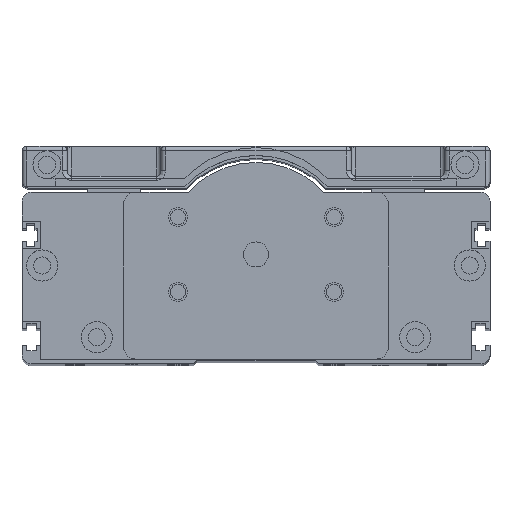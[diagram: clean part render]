
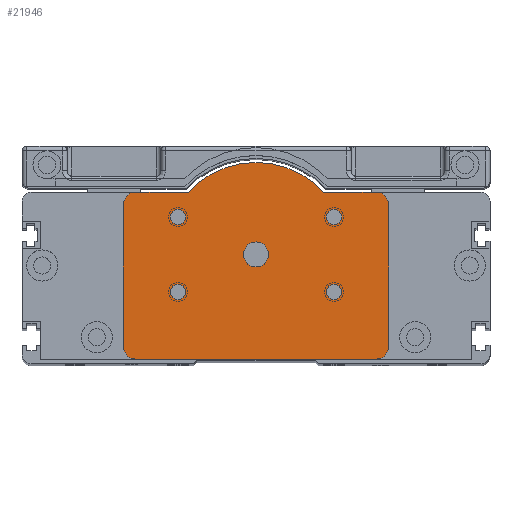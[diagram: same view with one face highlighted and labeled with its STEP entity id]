
A CAD part, top view. The second image highlights one B-rep face of the part: STEP entity #21946.
In plain terms, the highlighted planar face has unit normal (0, 0, 1).
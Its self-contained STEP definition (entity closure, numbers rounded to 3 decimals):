
#20588=CARTESIAN_POINT('',(38.5,49.5,29.));
#20589=DIRECTION('',(0.,0.,1.));
#20590=DIRECTION('',(1.,0.,0.));
#20591=AXIS2_PLACEMENT_3D('',#20588,#20589,#20590);
#20597=CARTESIAN_POINT('',(38.5,4.,29.));
#20598=DIRECTION('',(0.,0.,1.));
#20599=DIRECTION('',(0.,-1.,0.));
#20600=AXIS2_PLACEMENT_3D('',#20597,#20598,#20599);
#20749=CARTESIAN_POINT('',(-38.5,49.5,29.));
#20750=DIRECTION('',(0.,0.,1.));
#20751=DIRECTION('',(0.,1.,0.));
#20752=AXIS2_PLACEMENT_3D('',#20749,#20750,#20751);
#20763=DIRECTION('',(0.,1.,0.));
#20764=VECTOR('',#20763,45.5);
#20765=CARTESIAN_POINT('',(42.5,4.,29.));
#20766=LINE('',#20765,#20764);
#20767=DIRECTION('',(1.,0.,0.));
#20768=VECTOR('',#20767,77.);
#20769=CARTESIAN_POINT('',(-38.5,0.,29.));
#20770=LINE('',#20769,#20768);
#20771=DIRECTION('',(0.,1.,0.));
#20772=VECTOR('',#20771,45.5);
#20773=CARTESIAN_POINT('',(-42.5,4.,29.));
#20774=LINE('',#20773,#20772);
#20775=DIRECTION('',(-1.,0.,0.));
#20776=VECTOR('',#20775,16.815);
#20777=CARTESIAN_POINT('',(-21.685,53.5,29.));
#20778=LINE('',#20777,#20776);
#20779=CARTESIAN_POINT('',(0.,33.5,29.));
#20780=DIRECTION('',(0.,0.,1.));
#20781=DIRECTION('',(0.735,0.678,0.));
#20782=AXIS2_PLACEMENT_3D('',#20779,#20780,#20781);
#20784=DIRECTION('',(-1.,0.,0.));
#20785=VECTOR('',#20784,16.815);
#20786=CARTESIAN_POINT('',(38.5,53.5,29.));
#20787=LINE('',#20786,#20785);
#20788=CARTESIAN_POINT('',(0.,33.5,29.));
#20789=DIRECTION('',(0.,0.,1.));
#20790=DIRECTION('',(1.,0.,0.));
#20791=AXIS2_PLACEMENT_3D('',#20788,#20789,#20790);
#20793=CARTESIAN_POINT('',(0.,33.5,29.));
#20794=DIRECTION('',(0.,0.,1.));
#20795=DIRECTION('',(-1.,0.,0.));
#20796=AXIS2_PLACEMENT_3D('',#20793,#20794,#20795);
#20798=CARTESIAN_POINT('',(25.,45.5,29.));
#20799=DIRECTION('',(0.,0.,-1.));
#20800=DIRECTION('',(-1.,0.,0.));
#20801=AXIS2_PLACEMENT_3D('',#20798,#20799,#20800);
#20803=CARTESIAN_POINT('',(25.,45.5,29.));
#20804=DIRECTION('',(0.,0.,-1.));
#20805=DIRECTION('',(1.,0.,0.));
#20806=AXIS2_PLACEMENT_3D('',#20803,#20804,#20805);
#20808=CARTESIAN_POINT('',(25.,21.5,29.));
#20809=DIRECTION('',(0.,0.,1.));
#20810=DIRECTION('',(-1.,0.,0.));
#20811=AXIS2_PLACEMENT_3D('',#20808,#20809,#20810);
#20813=CARTESIAN_POINT('',(25.,21.5,29.));
#20814=DIRECTION('',(0.,0.,1.));
#20815=DIRECTION('',(1.,0.,0.));
#20816=AXIS2_PLACEMENT_3D('',#20813,#20814,#20815);
#20818=CARTESIAN_POINT('',(-25.,45.5,29.));
#20819=DIRECTION('',(0.,0.,1.));
#20820=DIRECTION('',(1.,0.,0.));
#20821=AXIS2_PLACEMENT_3D('',#20818,#20819,#20820);
#20823=CARTESIAN_POINT('',(-25.,45.5,29.));
#20824=DIRECTION('',(0.,0.,1.));
#20825=DIRECTION('',(-1.,0.,0.));
#20826=AXIS2_PLACEMENT_3D('',#20823,#20824,#20825);
#20828=CARTESIAN_POINT('',(-25.,21.5,29.));
#20829=DIRECTION('',(0.,0.,-1.));
#20830=DIRECTION('',(1.,0.,0.));
#20831=AXIS2_PLACEMENT_3D('',#20828,#20829,#20830);
#20833=CARTESIAN_POINT('',(-25.,21.5,29.));
#20834=DIRECTION('',(0.,0.,-1.));
#20835=DIRECTION('',(-1.,0.,0.));
#20836=AXIS2_PLACEMENT_3D('',#20833,#20834,#20835);
#20851=CARTESIAN_POINT('',(-38.5,4.,29.));
#20852=DIRECTION('',(0.,0.,1.));
#20853=DIRECTION('',(-1.,0.,0.));
#20854=AXIS2_PLACEMENT_3D('',#20851,#20852,#20853);
#21080=CARTESIAN_POINT('',(21.685,53.5,29.));
#21081=CARTESIAN_POINT('',(-21.685,53.5,29.));
#21082=VERTEX_POINT('',#21080);
#21083=VERTEX_POINT('',#21081);
#21128=CARTESIAN_POINT('',(38.5,53.5,29.));
#21130=VERTEX_POINT('',#21128);
#21132=CARTESIAN_POINT('',(42.5,49.5,29.));
#21134=VERTEX_POINT('',#21132);
#21137=CARTESIAN_POINT('',(38.5,0.,29.));
#21139=VERTEX_POINT('',#21137);
#21140=CARTESIAN_POINT('',(42.5,4.,29.));
#21141=VERTEX_POINT('',#21140);
#21145=CARTESIAN_POINT('',(-38.5,53.5,29.));
#21147=VERTEX_POINT('',#21145);
#21148=CARTESIAN_POINT('',(-42.5,49.5,29.));
#21149=VERTEX_POINT('',#21148);
#21152=CARTESIAN_POINT('',(-38.5,0.,29.));
#21154=VERTEX_POINT('',#21152);
#21156=CARTESIAN_POINT('',(-42.5,4.,29.));
#21158=VERTEX_POINT('',#21156);
#21168=CARTESIAN_POINT('',(22.5,45.5,29.));
#21169=CARTESIAN_POINT('',(27.5,45.5,29.));
#21170=VERTEX_POINT('',#21168);
#21171=VERTEX_POINT('',#21169);
#21176=CARTESIAN_POINT('',(22.5,21.5,29.));
#21177=CARTESIAN_POINT('',(27.5,21.5,29.));
#21178=VERTEX_POINT('',#21176);
#21179=VERTEX_POINT('',#21177);
#21184=CARTESIAN_POINT('',(-22.5,45.5,29.));
#21185=CARTESIAN_POINT('',(-27.5,45.5,29.));
#21186=VERTEX_POINT('',#21184);
#21187=VERTEX_POINT('',#21185);
#21192=CARTESIAN_POINT('',(-22.5,21.5,29.));
#21193=CARTESIAN_POINT('',(-27.5,21.5,29.));
#21194=VERTEX_POINT('',#21192);
#21195=VERTEX_POINT('',#21193);
#21316=CARTESIAN_POINT('',(4.,33.5,29.));
#21317=CARTESIAN_POINT('',(-4.,33.5,29.));
#21318=VERTEX_POINT('',#21316);
#21319=VERTEX_POINT('',#21317);
#21896=CARTESIAN_POINT('',(0.,0.,29.));
#21897=DIRECTION('',(0.,0.,1.));
#21898=DIRECTION('',(1.,0.,0.));
#21899=AXIS2_PLACEMENT_3D('',#21896,#21897,#21898);
#21900=PLANE('',#21899);
#21901=ORIENTED_EDGE('',*,*,#21636,.F.);
#21902=ORIENTED_EDGE('',*,*,#21650,.F.);
#21903=ORIENTED_EDGE('',*,*,#21662,.F.);
#21904=ORIENTED_EDGE('',*,*,#21680,.F.);
#21906=ORIENTED_EDGE('',*,*,#21905,.F.);
#21908=ORIENTED_EDGE('',*,*,#21907,.T.);
#21909=ORIENTED_EDGE('',*,*,#21888,.F.);
#21910=ORIENTED_EDGE('',*,*,#21622,.F.);
#21912=ORIENTED_EDGE('',*,*,#21911,.F.);
#21913=ORIENTED_EDGE('',*,*,#21590,.F.);
#21914=EDGE_LOOP('',(#21901,#21902,#21903,#21904,#21906,#21908,#21909,#21910,
#21912,#21913));
#21915=FACE_OUTER_BOUND('',#21914,.F.);
#21917=ORIENTED_EDGE('',*,*,#21916,.T.);
#21919=ORIENTED_EDGE('',*,*,#21918,.T.);
#21920=EDGE_LOOP('',(#21917,#21919));
#21921=FACE_BOUND('',#21920,.F.);
#21923=ORIENTED_EDGE('',*,*,#21922,.F.);
#21925=ORIENTED_EDGE('',*,*,#21924,.F.);
#21926=EDGE_LOOP('',(#21923,#21925));
#21927=FACE_BOUND('',#21926,.F.);
#21929=ORIENTED_EDGE('',*,*,#21928,.T.);
#21931=ORIENTED_EDGE('',*,*,#21930,.T.);
#21932=EDGE_LOOP('',(#21929,#21931));
#21933=FACE_BOUND('',#21932,.F.);
#21935=ORIENTED_EDGE('',*,*,#21934,.T.);
#21937=ORIENTED_EDGE('',*,*,#21936,.T.);
#21938=EDGE_LOOP('',(#21935,#21937));
#21939=FACE_BOUND('',#21938,.F.);
#21941=ORIENTED_EDGE('',*,*,#21940,.F.);
#21943=ORIENTED_EDGE('',*,*,#21942,.F.);
#21944=EDGE_LOOP('',(#21941,#21943));
#21945=FACE_BOUND('',#21944,.F.);
#21946=ADVANCED_FACE('',(#21915,#21921,#21927,#21933,#21939,#21945),#21900,.T.);
#20592=CIRCLE('',#20591,4.);
#20601=CIRCLE('',#20600,4.);
#20753=CIRCLE('',#20752,4.);
#20783=CIRCLE('',#20782,29.5);
#20792=CIRCLE('',#20791,4.);
#20797=CIRCLE('',#20796,4.);
#20802=CIRCLE('',#20801,2.5);
#20807=CIRCLE('',#20806,2.5);
#20812=CIRCLE('',#20811,2.5);
#20817=CIRCLE('',#20816,2.5);
#20822=CIRCLE('',#20821,2.5);
#20827=CIRCLE('',#20826,2.5);
#20832=CIRCLE('',#20831,2.5);
#20837=CIRCLE('',#20836,2.5);
#20855=CIRCLE('',#20854,4.);
#21590=EDGE_CURVE('',#21130,#21082,#20787,.T.);
#21622=EDGE_CURVE('',#21083,#21147,#20778,.T.);
#21636=EDGE_CURVE('',#21134,#21130,#20592,.T.);
#21650=EDGE_CURVE('',#21141,#21134,#20766,.T.);
#21662=EDGE_CURVE('',#21139,#21141,#20601,.T.);
#21680=EDGE_CURVE('',#21154,#21139,#20770,.T.);
#21888=EDGE_CURVE('',#21147,#21149,#20753,.T.);
#21905=EDGE_CURVE('',#21158,#21154,#20855,.T.);
#21907=EDGE_CURVE('',#21158,#21149,#20774,.T.);
#21911=EDGE_CURVE('',#21082,#21083,#20783,.T.);
#21916=EDGE_CURVE('',#21318,#21319,#20792,.T.);
#21918=EDGE_CURVE('',#21319,#21318,#20797,.T.);
#21922=EDGE_CURVE('',#21170,#21171,#20802,.T.);
#21924=EDGE_CURVE('',#21171,#21170,#20807,.T.);
#21928=EDGE_CURVE('',#21178,#21179,#20812,.T.);
#21930=EDGE_CURVE('',#21179,#21178,#20817,.T.);
#21934=EDGE_CURVE('',#21186,#21187,#20822,.T.);
#21936=EDGE_CURVE('',#21187,#21186,#20827,.T.);
#21940=EDGE_CURVE('',#21194,#21195,#20832,.T.);
#21942=EDGE_CURVE('',#21195,#21194,#20837,.T.);
